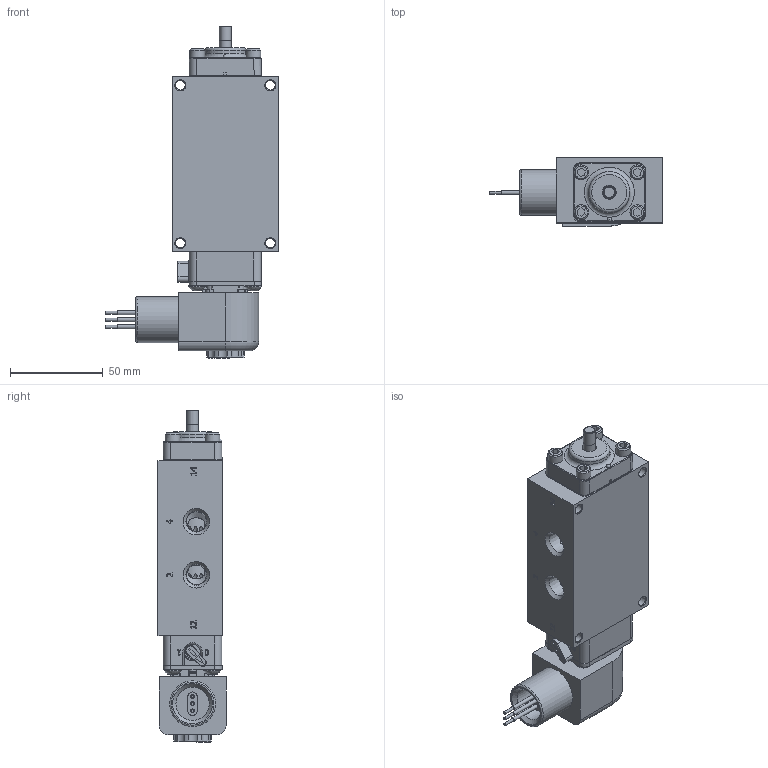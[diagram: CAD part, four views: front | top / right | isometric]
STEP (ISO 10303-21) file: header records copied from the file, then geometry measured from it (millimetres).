
FILE_DESCRIPTION(/* description */ (''),/* implementation_level */ '2;1');
FILE_NAME(/* name */ 'D:\Website Files\stp\Valves\Standard\ESO\ZESO2XOK.stp',/* time_stamp */ '2019-01-21T13:49:55-05:00',/* author */ ('RMcKenna'),/* organization */ (''),/* preprocessor_version */ 'ST-DEVELOPER v17',/* originating_system */ 'Autodesk Inventor 2018',/* authorisation */ '');
FILE_SCHEMA (('AUTOMOTIVE_DESIGN { 1 0 10303 214 3 1 1 }'));
Products named in the file (1): Part44
Bounding box: 92.98 x 36.57 x 178.56 mm (x, y, z)
Volume: 244724 mm3; surface area: 80940.4 mm2
Topology: 1 solids, 20 shells, 1594 faces, 4023 edges, 2596 vertices
Faces by surface type: plane 734, cylinder 380, cone 265, torus 120, bspline 90, sphere 5
Full cylindrical faces by diameter (mm): 1.3 x1, 1.397 x1, 1.5 x2, 1.524 x3, 2.032 x11, 2.35 x4, 2.381 x1, 2.5 x1, 2.8 x1, 3 x4, 3.048 x1, 3.175 x1, 3.4 x1, 3.683 x9, 4.191 x2, 4.305 x1, 4.394 x1, 4.826 x8, 5.15 x4, 5.156 x12, 5.5 x1, 6.35 x4, 6.65 x1, 6.9 x1, 7.188 x1, 7.541 x1, 7.75 x1, 7.9 x1, 7.938 x4, 8 x2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
Entity records: 57599 total; most frequent: CARTESIAN_POINT 17431, DIRECTION 8033, ORIENTED_EDGE 8026, EDGE_CURVE 4013, AXIS2_PLACEMENT_3D 3015, VERTEX_POINT 2596, LINE 2003, VECTOR 2003
